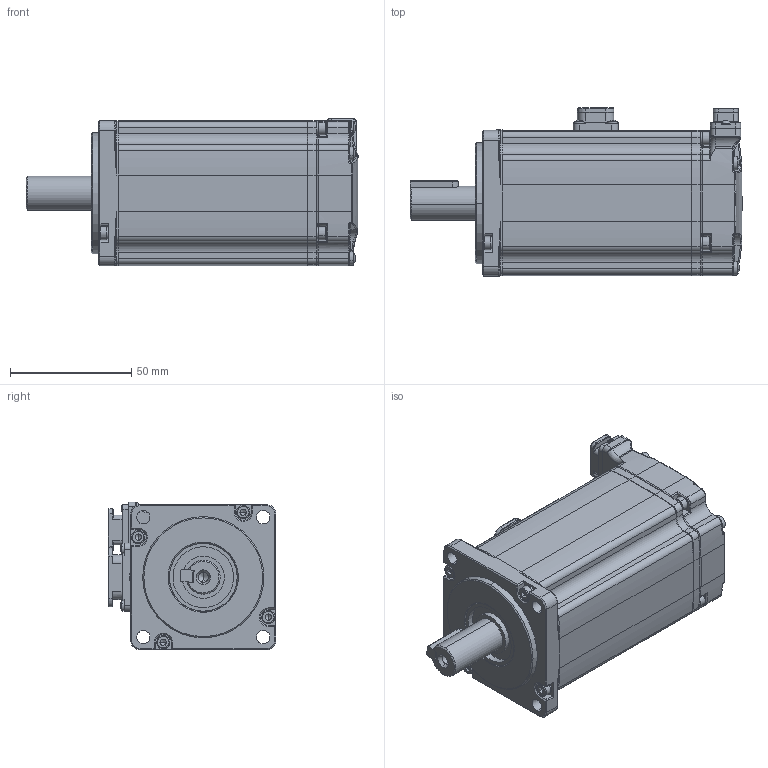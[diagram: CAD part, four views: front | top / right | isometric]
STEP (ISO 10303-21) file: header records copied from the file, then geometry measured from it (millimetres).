
FILE_DESCRIPTION (( 'STEP AP214' ), '1' );
FILE_NAME ('EM3A-02ALA243-N.STEP', '2022-09-06T05:11:11', ( '' ), ( '' ), 'SwSTEP 2.0', 'SolidWorks 2018', '' );
FILE_SCHEMA (( 'AUTOMOTIVE_DESIGN' ));
Length unit declared in the file: millimetre
Products named in the file (1): EM3A-02ALA243-N
Bounding box: 137 x 69.3 x 61 mm (x, y, z)
Volume: 145596.3 mm3; surface area: 94575.9 mm2
Topology: 43 solids, 43 shells, 3633 faces, 9221 edges, 5712 vertices
Faces by surface type: plane 1676, cylinder 1114, cone 306, torus 272, bspline 198, sphere 67
Entity records: 158644 total; most frequent: CARTESIAN_POINT 31449, ORIENTED_EDGE 18232, DIRECTION 18102, EDGE_CURVE 9116, AXIS2_PLACEMENT_3D 6514, VERTEX_POINT 5712, VECTOR 5074, LINE 5074
